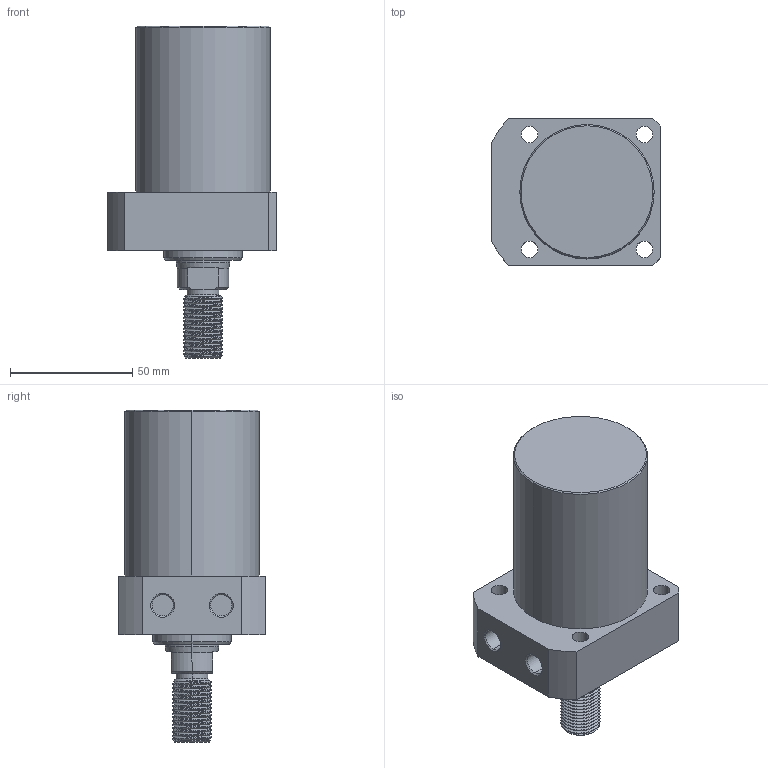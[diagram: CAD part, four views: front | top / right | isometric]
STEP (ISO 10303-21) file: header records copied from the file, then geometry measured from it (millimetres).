
FILE_DESCRIPTION (( 'STEP AP214' ), '1' );
FILE_NAME ('CLLR-055CT-055.STEP', '2020-01-09T00:31:36', ( 'Windows' ), ( 'Microsoft' ), 'SwSTEP 2.0', 'SolidWorks 2015', '' );
FILE_SCHEMA (( 'AUTOMOTIVE_DESIGN' ));
Length unit declared in the file: millimetre
Products named in the file (1): CLLR-055CT-055
Bounding box: 69 x 60 x 136 mm (x, y, z)
Volume: 265911.2 mm3; surface area: 31704.9 mm2
Topology: 1 solids, 1 shells, 101 faces, 260 edges, 169 vertices
Faces by surface type: cylinder 61, plane 20, cone 18, bspline 2
Entity records: 5042 total; most frequent: CARTESIAN_POINT 2695, ORIENTED_EDGE 520, DIRECTION 454, EDGE_CURVE 260, AXIS2_PLACEMENT_3D 177, VERTEX_POINT 169, EDGE_LOOP 117, FACE_OUTER_BOUND 101
